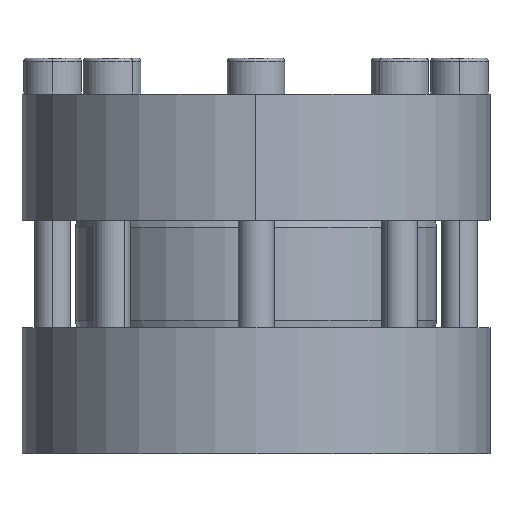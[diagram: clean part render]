
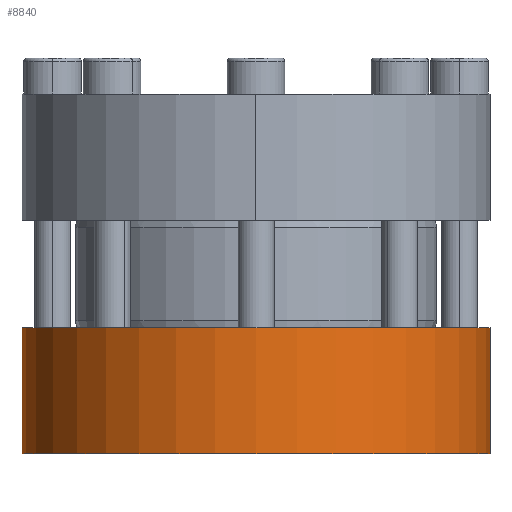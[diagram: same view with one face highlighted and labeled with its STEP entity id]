
A CAD part, front view. The second image highlights one B-rep face of the part: STEP entity #8840.
In plain terms, the highlighted cylindrical face has radius 65 mm (diameter 130 mm), a partial arc.
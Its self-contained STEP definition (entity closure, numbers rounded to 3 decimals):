
#146 = CIRCLE ( 'NONE', #5284, 65. ) ;
#597 = EDGE_CURVE ( 'NONE', #7453, #7461, #5955, .T. ) ;
#626 = CARTESIAN_POINT ( 'NONE',  ( -65., 0., 33.007 ) ) ;
#660 = ORIENTED_EDGE ( 'NONE', *, *, #597, .T. ) ;
#777 = DIRECTION ( 'NONE',  ( -1., 0., 0. ) ) ;
#802 = CARTESIAN_POINT ( 'NONE',  ( -65., 0., -1.993 ) ) ;
#1078 = CARTESIAN_POINT ( 'NONE',  ( 65., 0., 33.007 ) ) ;
#1283 = VERTEX_POINT ( 'NONE', #1718 ) ;
#1369 = CARTESIAN_POINT ( 'NONE',  ( 65., 0., 33.007 ) ) ;
#1718 = CARTESIAN_POINT ( 'NONE',  ( 65., 0., -1.993 ) ) ;
#1747 = CYLINDRICAL_SURFACE ( 'NONE', #3572, 65. ) ;
#2079 = VERTEX_POINT ( 'NONE', #1078 ) ;
#2996 = DIRECTION ( 'NONE',  ( 0., 0., 1. ) ) ;
#3046 = EDGE_CURVE ( 'NONE', #7453, #2079, #4749, .T. ) ;
#3572 = AXIS2_PLACEMENT_3D ( 'NONE', #9064, #7111, #777 ) ;
#3870 = VECTOR ( 'NONE', #5094, 1000. ) ;
#4095 = DIRECTION ( 'NONE',  ( 0., 0., 1. ) ) ;
#4749 = CIRCLE ( 'NONE', #4778, 65. ) ;
#4778 = AXIS2_PLACEMENT_3D ( 'NONE', #8539, #2996, #9450 ) ;
#5094 = DIRECTION ( 'NONE',  ( 0., 0., -1. ) ) ;
#5231 = DIRECTION ( 'NONE',  ( 0., 0., -1. ) ) ;
#5284 = AXIS2_PLACEMENT_3D ( 'NONE', #9619, #4095, #10525 ) ;
#5346 = CARTESIAN_POINT ( 'NONE',  ( -65., 0., 33.007 ) ) ;
#5359 = FACE_OUTER_BOUND ( 'NONE', #5446, .T. ) ;
#5446 = EDGE_LOOP ( 'NONE', ( #10370, #6882, #660, #6263 ) ) ;
#5955 = LINE ( 'NONE', #626, #10555 ) ;
#6263 = ORIENTED_EDGE ( 'NONE', *, *, #9613, .T. ) ;
#6334 = LINE ( 'NONE', #1369, #3870 ) ;
#6882 = ORIENTED_EDGE ( 'NONE', *, *, #3046, .F. ) ;
#7111 = DIRECTION ( 'NONE',  ( 0., 0., -1. ) ) ;
#7453 = VERTEX_POINT ( 'NONE', #5346 ) ;
#7461 = VERTEX_POINT ( 'NONE', #802 ) ;
#8539 = CARTESIAN_POINT ( 'NONE',  ( 0., 0., 33.007 ) ) ;
#8840 = ADVANCED_FACE ( 'NONE', ( #5359 ), #1747, .T. ) ;
#9064 = CARTESIAN_POINT ( 'NONE',  ( 0., 0., 33.007 ) ) ;
#9450 = DIRECTION ( 'NONE',  ( 1., 0., 0. ) ) ;
#9613 = EDGE_CURVE ( 'NONE', #7461, #1283, #146, .T. ) ;
#9619 = CARTESIAN_POINT ( 'NONE',  ( 0., 0., -1.993 ) ) ;
#10167 = EDGE_CURVE ( 'NONE', #2079, #1283, #6334, .T. ) ;
#10370 = ORIENTED_EDGE ( 'NONE', *, *, #10167, .F. ) ;
#10525 = DIRECTION ( 'NONE',  ( 1., 0., 0. ) ) ;
#10555 = VECTOR ( 'NONE', #5231, 1000. ) ;
